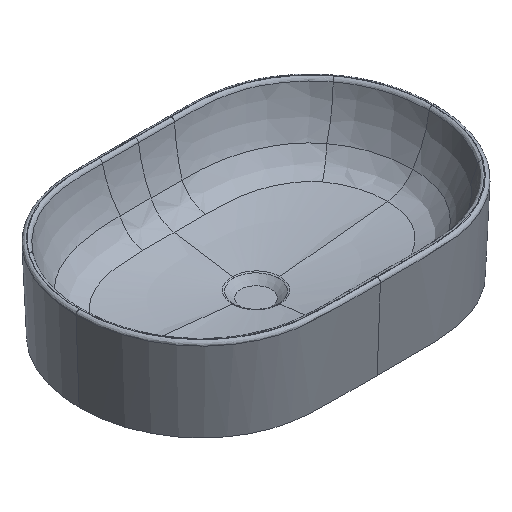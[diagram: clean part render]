
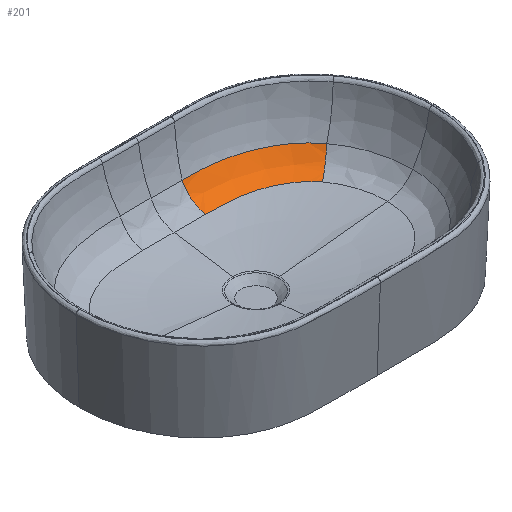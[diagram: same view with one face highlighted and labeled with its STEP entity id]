
A CAD part, isometric view. The second image highlights one B-rep face of the part: STEP entity #201.
In plain terms, the highlighted free-form (B-spline) face has degree [2, 3] with [3, 20] control points.
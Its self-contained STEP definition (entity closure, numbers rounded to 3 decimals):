
#78=(
BOUNDED_SURFACE()
B_SPLINE_SURFACE(2,3,((#5101,#5102,#5103,#5104,#5105,#5106,#5107,#5108,
#5109,#5110,#5111,#5112,#5113,#5114,#5115,#5116,#5117,#5118,#5119,#5120),
(#5121,#5122,#5123,#5124,#5125,#5126,#5127,#5128,#5129,#5130,#5131,#5132,
#5133,#5134,#5135,#5136,#5137,#5138,#5139,#5140),(#5141,#5142,#5143,#5144,
#5145,#5146,#5147,#5148,#5149,#5150,#5151,#5152,#5153,#5154,#5155,#5156,
#5157,#5158,#5159,#5160)),.UNSPECIFIED.,.F.,.F.,.F.)
B_SPLINE_SURFACE_WITH_KNOTS((3,3),(4,2,2,2,2,2,2,2,2,4),(0.,1.),(0.,0.125,
0.188,0.25,0.375,0.5,0.625,0.75,0.875,1.),.UNSPECIFIED.)
GEOMETRIC_REPRESENTATION_ITEM()
RATIONAL_B_SPLINE_SURFACE(((1.,1.,1.,1.,1.,1.,1.,1.,1.,1.,1.,1.,1.,1.,1.,
1.,1.,1.,1.,1.),(1.222,1.222,1.222,1.222,
1.222,1.222,1.222,1.222,1.222,
1.222,1.222,1.222,1.222,1.222,
1.222,1.222,1.222,1.222,1.222,
1.222),(1.,1.,1.,1.,1.,1.,1.,1.,1.,1.,1.,1.,1.,1.,1.,1.,1.,1.,
1.,1.)))
REPRESENTATION_ITEM('')
SURFACE()
);
#111=(
BOUNDED_CURVE()
B_SPLINE_CURVE(3,(#3144,#3145,#3146,#3147,#3148,#3149,#3150,#3151,#3152,
#3153,#3154,#3155,#3156,#3157,#3158,#3159,#3160,#3161,#3162,#3163),
 .UNSPECIFIED.,.F.,.F.)
B_SPLINE_CURVE_WITH_KNOTS((4,2,2,2,2,2,2,2,2,4),(0.,0.125,0.188,0.25,0.375,
0.5,0.625,0.75,0.875,1.),.UNSPECIFIED.)
CURVE()
GEOMETRIC_REPRESENTATION_ITEM()
RATIONAL_B_SPLINE_CURVE((1.,1.,1.,1.,1.,1.,1.,1.,1.,1.,1.,1.,1.,1.,1.,1.,
1.,1.,1.,1.))
REPRESENTATION_ITEM('')
);
#116=(
BOUNDED_CURVE()
B_SPLINE_CURVE(2,(#4897,#4898,#4899),.UNSPECIFIED.,.F.,.F.)
B_SPLINE_CURVE_WITH_KNOTS((3,3),(0.,1.),.UNSPECIFIED.)
CURVE()
GEOMETRIC_REPRESENTATION_ITEM()
RATIONAL_B_SPLINE_CURVE((1.,1.222,1.))
REPRESENTATION_ITEM('')
);
#118=(
BOUNDED_CURVE()
B_SPLINE_CURVE(2,(#5077,#5078,#5079),.UNSPECIFIED.,.F.,.F.)
B_SPLINE_CURVE_WITH_KNOTS((3,3),(0.,1.),.UNSPECIFIED.)
CURVE()
GEOMETRIC_REPRESENTATION_ITEM()
RATIONAL_B_SPLINE_CURVE((1.,1.222,1.))
REPRESENTATION_ITEM('')
);
#119=(
BOUNDED_CURVE()
B_SPLINE_CURVE(3,(#5081,#5082,#5083,#5084,#5085,#5086,#5087,#5088,#5089,
#5090,#5091,#5092,#5093,#5094,#5095,#5096,#5097,#5098,#5099,#5100),
 .UNSPECIFIED.,.F.,.F.)
B_SPLINE_CURVE_WITH_KNOTS((4,2,2,2,2,2,2,2,2,4),(0.,0.125,0.25,0.375,0.5,
0.625,0.75,0.813,0.875,1.),.UNSPECIFIED.)
CURVE()
GEOMETRIC_REPRESENTATION_ITEM()
RATIONAL_B_SPLINE_CURVE((1.,1.,1.,1.,1.,1.,1.,1.,1.,1.,1.,1.,1.,1.,1.,1.,
1.,1.,1.,1.))
REPRESENTATION_ITEM('')
);
#201=ADVANCED_FACE('',(#302),#78,.F.);
#302=FACE_OUTER_BOUND('',#373,.T.);
#373=EDGE_LOOP('',(#624,#625,#626,#627));
#624=ORIENTED_EDGE('',*,*,#1011,.T.);
#625=ORIENTED_EDGE('',*,*,#1012,.T.);
#626=ORIENTED_EDGE('',*,*,#1009,.F.);
#627=ORIENTED_EDGE('',*,*,#994,.T.);
#869=VERTEX_POINT('',#2827);
#872=VERTEX_POINT('',#3131);
#880=VERTEX_POINT('',#4900);
#881=VERTEX_POINT('',#5080);
#994=EDGE_CURVE('',#872,#869,#111,.T.);
#1009=EDGE_CURVE('',#872,#880,#116,.T.);
#1011=EDGE_CURVE('',#869,#881,#118,.T.);
#1012=EDGE_CURVE('',#881,#880,#119,.T.);
#2827=CARTESIAN_POINT('',(47.32,160.268,88.641));
#3131=CARTESIAN_POINT('',(207.399,99.343,87.26));
#3144=CARTESIAN_POINT('',(207.399,99.343,87.261));
#3145=CARTESIAN_POINT('',(202.024,106.487,87.331));
#3146=CARTESIAN_POINT('',(196.122,112.724,87.354));
#3147=CARTESIAN_POINT('',(186.719,121.062,87.372));
#3148=CARTESIAN_POINT('',(183.493,123.669,87.375));
#3149=CARTESIAN_POINT('',(176.872,128.577,87.382));
#3150=CARTESIAN_POINT('',(173.467,130.883,87.386));
#3151=CARTESIAN_POINT('',(163.171,137.29,87.41));
#3152=CARTESIAN_POINT('',(156.148,140.928,87.443));
#3153=CARTESIAN_POINT('',(141.789,147.167,87.565));
#3154=CARTESIAN_POINT('',(134.44,149.764,87.655));
#3155=CARTESIAN_POINT('',(119.618,153.968,87.875));
#3156=CARTESIAN_POINT('',(112.288,155.532,88.001));
#3157=CARTESIAN_POINT('',(98.049,157.84,88.229));
#3158=CARTESIAN_POINT('',(91.142,158.587,88.331));
#3159=CARTESIAN_POINT('',(77.878,159.593,88.483));
#3160=CARTESIAN_POINT('',(71.515,159.858,88.534));
#3161=CARTESIAN_POINT('',(59.188,160.184,88.605));
#3162=CARTESIAN_POINT('',(53.24,160.247,88.626));
#3163=CARTESIAN_POINT('',(47.32,160.269,88.642));
#4897=CARTESIAN_POINT('',(207.399,99.343,87.26));
#4898=CARTESIAN_POINT('',(196.691,90.766,66.816));
#4899=CARTESIAN_POINT('',(177.437,75.831,63.292));
#4900=CARTESIAN_POINT('',(177.438,75.831,63.292));
#5077=CARTESIAN_POINT('',(47.32,160.269,88.642));
#5078=CARTESIAN_POINT('',(47.751,149.137,66.421));
#5079=CARTESIAN_POINT('',(47.985,124.926,60.794));
#5080=CARTESIAN_POINT('',(47.985,124.925,60.794));
#5081=CARTESIAN_POINT('',(47.985,124.926,60.794));
#5082=CARTESIAN_POINT('',(53.837,124.838,60.862));
#5083=CARTESIAN_POINT('',(59.727,124.69,60.946));
#5084=CARTESIAN_POINT('',(71.556,124.151,61.147));
#5085=CARTESIAN_POINT('',(77.488,123.755,61.261));
#5086=CARTESIAN_POINT('',(89.337,122.502,61.495));
#5087=CARTESIAN_POINT('',(95.255,121.641,61.614));
#5088=CARTESIAN_POINT('',(107.018,119.273,61.846));
#5089=CARTESIAN_POINT('',(112.862,117.767,61.959));
#5090=CARTESIAN_POINT('',(124.438,114.,62.187));
#5091=CARTESIAN_POINT('',(130.067,111.775,62.3));
#5092=CARTESIAN_POINT('',(140.947,106.626,62.53));
#5093=CARTESIAN_POINT('',(146.207,103.701,62.648));
#5094=CARTESIAN_POINT('',(153.787,98.707,62.821));
#5095=CARTESIAN_POINT('',(156.271,96.932,62.878));
#5096=CARTESIAN_POINT('',(161.041,93.217,62.986));
#5097=CARTESIAN_POINT('',(163.335,91.272,63.037));
#5098=CARTESIAN_POINT('',(169.916,85.164,63.177));
#5099=CARTESIAN_POINT('',(173.913,80.729,63.252));
#5100=CARTESIAN_POINT('',(177.438,75.831,63.292));
#5101=CARTESIAN_POINT('',(207.399,99.343,87.261));
#5102=CARTESIAN_POINT('',(202.024,106.487,87.331));
#5103=CARTESIAN_POINT('',(196.122,112.724,87.354));
#5104=CARTESIAN_POINT('',(186.719,121.062,87.372));
#5105=CARTESIAN_POINT('',(183.493,123.669,87.375));
#5106=CARTESIAN_POINT('',(176.872,128.577,87.382));
#5107=CARTESIAN_POINT('',(173.467,130.883,87.386));
#5108=CARTESIAN_POINT('',(163.171,137.29,87.41));
#5109=CARTESIAN_POINT('',(156.148,140.928,87.443));
#5110=CARTESIAN_POINT('',(141.789,147.167,87.565));
#5111=CARTESIAN_POINT('',(134.44,149.764,87.655));
#5112=CARTESIAN_POINT('',(119.618,153.968,87.875));
#5113=CARTESIAN_POINT('',(112.288,155.532,88.001));
#5114=CARTESIAN_POINT('',(98.049,157.84,88.229));
#5115=CARTESIAN_POINT('',(91.142,158.587,88.331));
#5116=CARTESIAN_POINT('',(77.878,159.593,88.483));
#5117=CARTESIAN_POINT('',(71.515,159.858,88.534));
#5118=CARTESIAN_POINT('',(59.188,160.184,88.605));
#5119=CARTESIAN_POINT('',(53.24,160.247,88.626));
#5120=CARTESIAN_POINT('',(47.32,160.269,88.642));
#5121=CARTESIAN_POINT('',(196.692,90.766,66.816));
#5122=CARTESIAN_POINT('',(192.065,97.103,66.813));
#5123=CARTESIAN_POINT('',(186.917,102.712,66.776));
#5124=CARTESIAN_POINT('',(178.612,110.299,66.709));
#5125=CARTESIAN_POINT('',(175.746,112.687,66.685));
#5126=CARTESIAN_POINT('',(169.833,117.213,66.637));
#5127=CARTESIAN_POINT('',(166.777,119.355,66.613));
#5128=CARTESIAN_POINT('',(157.507,125.341,66.55));
#5129=CARTESIAN_POINT('',(151.142,128.791,66.518));
#5130=CARTESIAN_POINT('',(138.077,134.807,66.479));
#5131=CARTESIAN_POINT('',(131.362,137.372,66.472));
#5132=CARTESIAN_POINT('',(117.725,141.648,66.47));
#5133=CARTESIAN_POINT('',(110.928,143.318,66.474));
#5134=CARTESIAN_POINT('',(97.55,145.888,66.474));
#5135=CARTESIAN_POINT('',(90.971,146.789,66.47));
#5136=CARTESIAN_POINT('',(78.144,148.066,66.454));
#5137=CARTESIAN_POINT('',(71.891,148.446,66.443));
#5138=CARTESIAN_POINT('',(59.655,148.947,66.427));
#5139=CARTESIAN_POINT('',(53.683,149.07,66.423));
#5140=CARTESIAN_POINT('',(47.751,149.137,66.421));
#5141=CARTESIAN_POINT('',(177.438,75.831,63.292));
#5142=CARTESIAN_POINT('',(173.913,80.729,63.252));
#5143=CARTESIAN_POINT('',(169.916,85.164,63.177));
#5144=CARTESIAN_POINT('',(163.335,91.272,63.037));
#5145=CARTESIAN_POINT('',(161.041,93.217,62.986));
#5146=CARTESIAN_POINT('',(156.271,96.932,62.878));
#5147=CARTESIAN_POINT('',(153.787,98.707,62.821));
#5148=CARTESIAN_POINT('',(146.207,103.701,62.648));
#5149=CARTESIAN_POINT('',(140.947,106.626,62.53));
#5150=CARTESIAN_POINT('',(130.067,111.775,62.3));
#5151=CARTESIAN_POINT('',(124.438,114.,62.187));
#5152=CARTESIAN_POINT('',(112.862,117.767,61.959));
#5153=CARTESIAN_POINT('',(107.018,119.273,61.846));
#5154=CARTESIAN_POINT('',(95.255,121.641,61.614));
#5155=CARTESIAN_POINT('',(89.337,122.502,61.495));
#5156=CARTESIAN_POINT('',(77.488,123.755,61.261));
#5157=CARTESIAN_POINT('',(71.556,124.151,61.147));
#5158=CARTESIAN_POINT('',(59.727,124.69,60.946));
#5159=CARTESIAN_POINT('',(53.837,124.838,60.862));
#5160=CARTESIAN_POINT('',(47.985,124.926,60.794));
